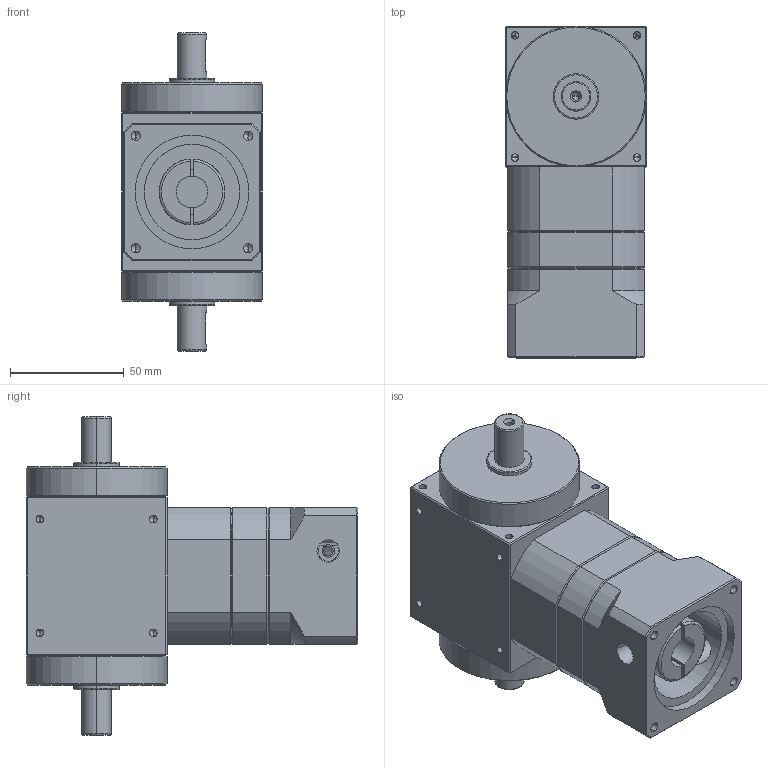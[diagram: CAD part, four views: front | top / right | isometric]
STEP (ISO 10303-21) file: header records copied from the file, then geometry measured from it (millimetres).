
FILE_DESCRIPTION (( 'STEP AP203' ), '1' );
FILE_NAME ('MF60HT-S2-L2£r50PCD£r70M5.STEP', '2019-02-26T07:43:44', ( 'KELLY' ), ( '' ), 'SwSTEP 2.0', 'SolidWorks 2012', '' );
FILE_SCHEMA (( 'CONFIG_CONTROL_DESIGN' ));
Length unit declared in the file: millimetre
Products named in the file (1): MF60HT-S2-L2｣r50PCD｣r70M5
Bounding box: 62 x 146 x 140 mm (x, y, z)
Volume: 591732.8 mm3; surface area: 88731.5 mm2
Topology: 7 solids, 7 shells, 325 faces, 798 edges, 446 vertices
Faces by surface type: cylinder 128, plane 97, cone 88, torus 12
Entity records: 10142 total; most frequent: CARTESIAN_POINT 2767, DIRECTION 1538, ORIENTED_EDGE 1492, EDGE_CURVE 746, AXIS2_PLACEMENT_3D 598, VERTEX_POINT 446, EDGE_LOOP 372, LINE 342
